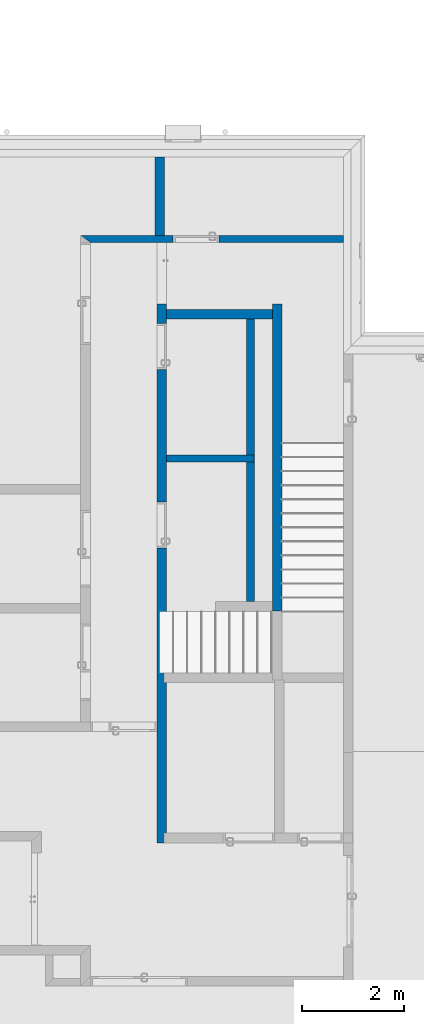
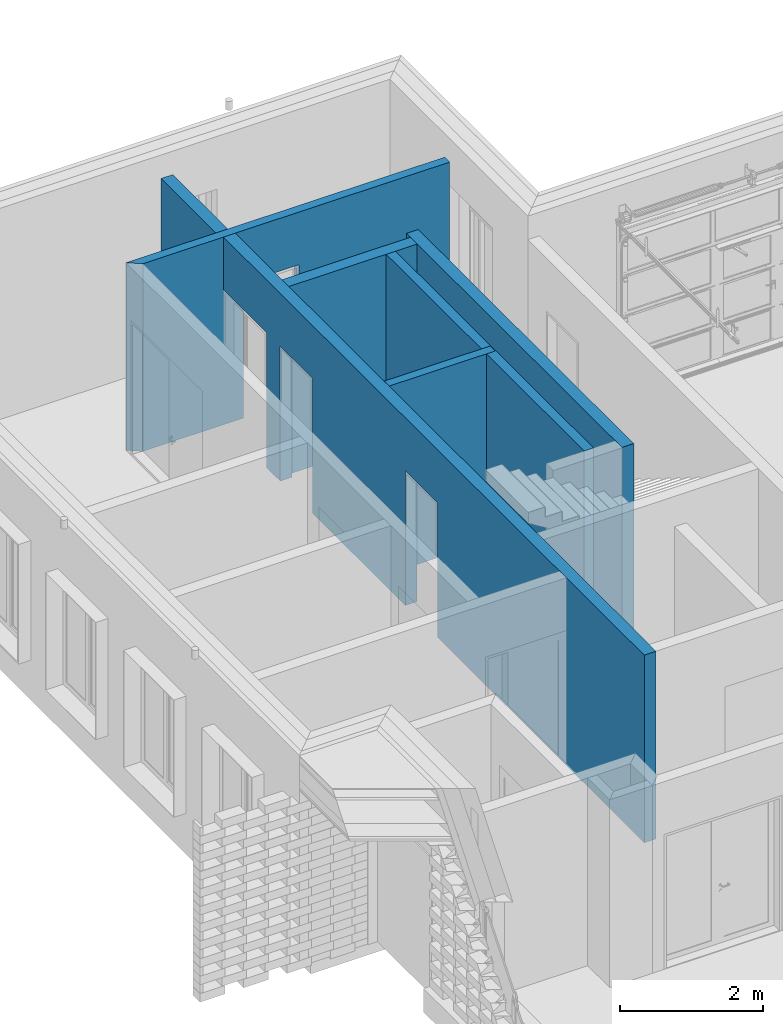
# One storey, part 9 of 62: 7 walls, 4 openings.
"""IFC2X3 building model written with IfcOpenShell, lengths in millimetres."""

from ifc_helpers import new_model, entity, si_unit, converted_unit, derived_unit, money_unit, direction, frame, origin_with_axes, origin_2d_with_axis, place, context, subcontext, project, spatial, polyline, rectangle, outline, extrude, material, layer, layer_set, layer_usage, type_object, element, save


model = new_model("IFC2X3")

# Units and contexts
model_context = context("Model", 3, precision=0.01, world=origin_with_axes(), true_north=direction((0.0, 1.0)))
body_context = subcontext(model_context, "Body", "Model", "MODEL_VIEW")
ifc_project = project(units=[si_unit("LENGTHUNIT", "METRE", prefix="MILLI"), si_unit("AREAUNIT", "SQUARE_METRE"), si_unit("VOLUMEUNIT", "CUBIC_METRE"), converted_unit("PLANEANGLEUNIT", "DEGREE", entity("IfcPlaneAngleMeasure", 0.0174532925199), si_unit("PLANEANGLEUNIT", "RADIAN"), dimensions=[0, 0, 0, 0, 0, 0, 0]), si_unit("SOLIDANGLEUNIT", "STERADIAN"), money_unit("EUR"), converted_unit("TIMEUNIT", "Year", entity("IfcTimeMeasure", 31556926.0), si_unit("TIMEUNIT", "SECOND"), dimensions=[0, 0, 1, 0, 0, 0, 0]), si_unit("MASSUNIT", "GRAM", prefix="KILO"), si_unit("THERMODYNAMICTEMPERATUREUNIT", "DEGREE_CELSIUS"), si_unit("LUMINOUSINTENSITYUNIT", "LUMEN"), si_unit("ENERGYUNIT", "JOULE", prefix="MEGA"), derived_unit("THERMALCONDUCTANCEUNIT", [(si_unit("POWERUNIT", "WATT"), 1), (si_unit("LENGTHUNIT", "METRE"), -1), (si_unit("THERMODYNAMICTEMPERATUREUNIT", "KELVIN"), -1)]), derived_unit("SPECIFICHEATCAPACITYUNIT", [(si_unit("ENERGYUNIT", "JOULE"), 1), (si_unit("MASSUNIT", "GRAM", prefix="KILO"), -1), (si_unit("THERMODYNAMICTEMPERATUREUNIT", "KELVIN"), -1)]), derived_unit("MASSDENSITYUNIT", [(si_unit("MASSUNIT", "GRAM", prefix="KILO"), 1), (si_unit("VOLUMEUNIT", "CUBIC_METRE"), -1)])], contexts=[model_context])

# Site, building, storey
site_placement = place(None, origin_with_axes())
site = spatial("IfcSite", under=ifc_project, at=site_placement, Name="KIRDE 14, ELVA", CompositionType="ELEMENT")
building_placement = place(site_placement, origin_with_axes())
building = spatial("IfcBuilding", under=site, at=building_placement, Name="PPA ja Päästeameti ühishoone", CompositionType="ELEMENT")
storey_placement = place(building_placement, origin_with_axes())
storey = spatial("IfcBuildingStorey", under=building, at=storey_placement, Name="Esimene korrus", CompositionType="ELEMENT", Elevation=0.0)

# Walls
ifc_material_1 = material(Name="COLUMBIA KIVI (BETONEERITUD)")
ifc_layer_1 = layer(ifc_material_1, 190.0, ventilated="UNKNOWN")
ifc_layer_set_1 = layer_set([ifc_layer_1], Name="SS-02")
ifc_layer_usage_1 = layer_usage(ifc_layer_set_1, "AXIS2", "NEGATIVE", 0.0)
wall_type_1 = type_object("IfcWallType", Name="SS-02 190", PredefinedType="USERDEFINED")
wall_1_placement = place(storey_placement, frame((7700.00010636, 21728.9994668, 0.0), z_axis=(0.0, 0.0, 1.0), x_axis=(0.0, -1.0, 0.0)))
element("IfcWallStandardCase", 1, at=wall_1_placement, inside=storey, type_object=wall_type_1, material=ifc_layer_usage_1, Name="SS-02", ObjectType="PARTITIONING", context=body_context, shape_type="SweptSolid", body=[
    extrude(outline(polyline([(0.0, -190.0), (6019.99960835, -190.0), (6019.99960835, 0.0), (0.0, 0.0), (0.0, -190.0)])), origin_with_axes(), (0.0, 0.0, 1.0), 3200.0),
])
ifc_layer_usage_2 = layer_usage(ifc_layer_set_1, "AXIS2", "NEGATIVE", 0.0)
wall_2_placement = place(storey_placement, frame((7700.00010262, 21428.9994231, 0.0), z_axis=(0.0, 0.0, 1.0), x_axis=(-1.0, -4.04922899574e-10, 0.0)))
element("IfcWallStandardCase", 2, at=wall_2_placement, inside=storey, type_object=wall_type_1, material=ifc_layer_usage_2, Name="SS-03", ObjectType="PARTITIONING", context=body_context, shape_type="SweptSolid", body=[
    extrude(outline(polyline([(189.999996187, -190.0), (2259.99999973, -190.0), (2259.9999998, 0.0), (189.999996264, 0.0), (189.999996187, -190.0)])), origin_with_axes(), (0.0, 0.0, 1.0), 3200.0),
])

# Wall, openings
ifc_layer_usage_3 = layer_usage(ifc_layer_set_1, "AXIS2", "NEGATIVE", 190.0)
wall_3_placement = place(storey_placement, frame((5440.00010282, 11173.3966704, 0.0), z_axis=(0.0, 0.0, 1.0), x_axis=(0.0, 1.0, 0.0)))
wall_3 = element("IfcWallStandardCase", 3, at=wall_3_placement, inside=storey, type_object=wall_type_1, material=ifc_layer_usage_3, Name="SS-02", ObjectType="PARTITIONING", context=body_context, shape_type="SweptSolid", body=[
    extrude(outline(polyline([(0.0, 0.0), (11755.1914193, 0.0), (11755.1914193, 190.0), (0.0, 190.0), (0.0, 0.0)])), origin_with_axes(), (0.0, 0.0, 1.0), 3200.0),
])
opening_1_placement = place(wall_3_placement, frame((6225.60322713, 0.0, 0.0), z_axis=(0.0, 0.0, 1.0), x_axis=(1.0, 0.0, 0.0)))
element("IfcOpeningElement", 4, at=opening_1_placement, cuts=wall_3, Name="SU-18*", context=body_context, shape_type="SweptSolid", body=[
    extrude(rectangle(XDim=900.0, YDim=2300.0, at=origin_2d_with_axis()), frame((0.0, 190.0, 1150.0), z_axis=(0.0, 1.0, 0.0), x_axis=(1.0, 0.0, 0.0)), (0.0, 0.0, -1.0), 570.0),
])
opening_2_placement = place(wall_3_placement, frame((11155.6029627, 0.0, 0.0), z_axis=(0.0, 0.0, 1.0), x_axis=(1.0, 0.0, 0.0)))
element("IfcOpeningElement", 5, at=opening_2_placement, cuts=wall_3, Name="SU-05", context=body_context, shape_type="SweptSolid", body=[
    extrude(rectangle(XDim=1200.0, YDim=2300.0, at=origin_2d_with_axis()), frame((0.0, 190.0, 1150.0), z_axis=(0.0, -1.0, 0.0), x_axis=(-1.0, 0.0, 0.0)), (0.0, 0.0, 1.0), 570.0),
])
opening_3_placement = place(wall_3_placement, frame((9719.62798328, 0.0, 0.0), z_axis=(0.0, 0.0, 1.0), x_axis=(1.0, 0.0, 0.0)))
element("IfcOpeningElement", 6, at=opening_3_placement, cuts=wall_3, Name="SU-32", context=body_context, shape_type="SweptSolid", body=[
    extrude(rectangle(XDim=900.0, YDim=2300.0, at=origin_2d_with_axis()), frame((0.0, 190.0, 1150.0), z_axis=(0.0, 1.0, 0.0), x_axis=(1.0, 0.0, 0.0)), (0.0, 0.0, -1.0), 570.0),
])

# Walls
ifc_layer_usage_4 = layer_usage(ifc_layer_set_1, "AXIS2", "NEGATIVE", 190.0)
wall_4_placement = place(storey_placement, frame((5400.0000952, 22928.5880897, 0.0), z_axis=(0.0, 0.0, 1.0), x_axis=(0.0, 1.0, 0.0)))
element("IfcWallStandardCase", 7, at=wall_4_placement, inside=storey, type_object=wall_type_1, material=ifc_layer_usage_4, Name="SS-02", ObjectType="PARTITIONING", context=body_context, shape_type="SweptSolid", body=[
    extrude(outline(polyline([(140.0, 0.0), (1671.22864484, 0.0), (1671.22864476, 190.0), (140.0, 190.0), (140.0, 0.0)])), origin_with_axes(), (0.0, 0.0, 1.0), 3200.0),
])
ifc_material_2 = material(Name="Kergplokk")
ifc_layer_2 = layer(ifc_material_2, 140.0, ventilated="UNKNOWN")
ifc_layer_set_2 = layer_set([ifc_layer_2], Name="SS-03 (COLUMBIA 140)")
ifc_layer_usage_5 = layer_usage(ifc_layer_set_2, "AXIS2", "NEGATIVE", 140.0)
wall_type_2 = type_object("IfcWallType", Name="SS-03 (COLUMBIA 140) 140", PredefinedType="USERDEFINED")
wall_5_placement = place(storey_placement, frame((5440.00010282, 18628.9996355, 0.0), z_axis=(0.0, 0.0, 1.0), x_axis=(1.0, 0.0, 0.0)))
element("IfcWallStandardCase", 8, at=wall_5_placement, inside=storey, type_object=wall_type_2, material=ifc_layer_usage_5, Name="SS-03", ObjectType="PARTITIONING", context=body_context, shape_type="SweptSolid", body=[
    extrude(outline(polyline([(0.0, 0.0), (1710.00002611, 0.0), (1710.00002611, 140.0), (0.0, 140.0), (0.0, 0.0)])), origin_with_axes(), (0.0, 0.0, 1.0), 3200.0),
])

# Wall, opening
ifc_layer_usage_6 = layer_usage(ifc_layer_set_2, "AXIS2", "POSITIVE", -140.0)
wall_6_placement = place(storey_placement, frame((8900.00012238, 22928.5880897, 0.0), z_axis=(0.0, 0.0, 1.0), x_axis=(-1.0, 0.0, 0.0)))
wall_6 = element("IfcWallStandardCase", 9, at=wall_6_placement, inside=storey, type_object=wall_type_2, material=ifc_layer_usage_6, Name="SS-03", ObjectType="PARTITIONING", context=body_context, shape_type="SweptSolid", body=[
    extrude(outline(polyline([(-3.7038461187e-07, -140.0), (5139.99991119, -140.0), (4949.99991119, 0.0), (-4.04249078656e-07, 0.0), (-3.7038461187e-07, -140.0)])), origin_with_axes(), (0.0, 0.0, 1.0), 3200.0),
])
opening_4_placement = place(wall_6_placement, frame((2879.41677542, 0.0, 0.0), z_axis=(0.0, 0.0, 1.0), x_axis=(1.0, 0.0, 0.0)))
element("IfcOpeningElement", 10, at=opening_4_placement, cuts=wall_6, Name="SU-18*", context=body_context, shape_type="SweptSolid", body=[
    extrude(rectangle(XDim=900.0, YDim=2300.0, at=origin_2d_with_axis()), frame((0.0, 140.0, 1150.0), z_axis=(0.0, 1.0, 0.0), x_axis=(1.0, 0.0, 0.0)), (0.0, 0.0, -1.0), 420.0),
])

# Wall
ifc_layer_3 = layer(ifc_material_1, 150.0, ventilated="UNKNOWN")
ifc_layer_set_3 = layer_set([ifc_layer_3], Name="SS-06")
ifc_layer_usage_7 = layer_usage(ifc_layer_set_3, "AXIS2", "POSITIVE", -150.0)
wall_type_3 = type_object("IfcWallType", Name="SS-06 150", PredefinedType="USERDEFINED")
wall_7_placement = place(storey_placement, frame((7010.00012923, 15698.9988725, 0.0), z_axis=(0.0, 0.0, 1.0), x_axis=(0.0, 1.0, 0.0)))
element("IfcWallStandardCase", 11, at=wall_7_placement, inside=storey, type_object=wall_type_3, material=ifc_layer_usage_7, Name="SS-06", ObjectType="PARTITIONING", context=body_context, shape_type="SweptSolid", body=[
    extrude(outline(polyline([(200.0, -150.0), (5740.00076227, -150.0), (5740.00076227, 0.0), (200.0, 0.0), (200.0, -150.0)])), origin_with_axes(), (0.0, 0.0, 1.0), 3200.0),
])

save(model, "model.ifc")
